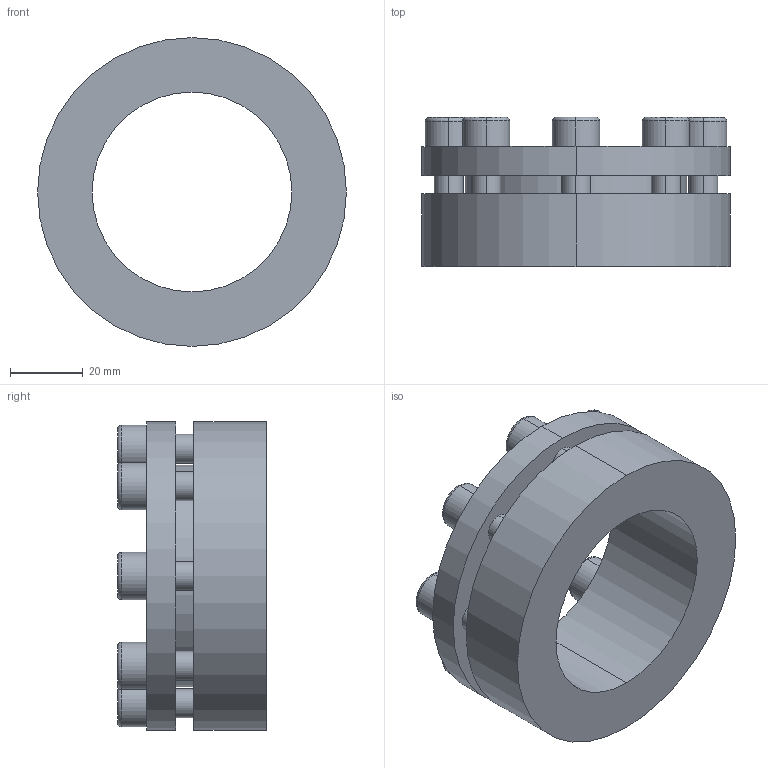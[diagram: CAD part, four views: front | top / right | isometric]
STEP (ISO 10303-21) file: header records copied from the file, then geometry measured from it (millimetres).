
FILE_DESCRIPTION (( 'STEP AP203' ), '1' );
FILE_NAME ('PL-H3 55-85.STEP', '2021-10-23T01:08:26', ( '' ), ( '' ), 'SwSTEP 2.0', 'SolidWorks 2018', '' );
FILE_SCHEMA (( 'CONFIG_CONTROL_DESIGN' ));
Length unit declared in the file: millimetre
Products named in the file (1): PL-H3 55-85
Bounding box: 85 x 41 x 85 mm (x, y, z)
Volume: 104536.1 mm3; surface area: 29574.8 mm2
Topology: 1 solids, 1 shells, 124 faces, 296 edges, 192 vertices
Faces by surface type: plane 68, cylinder 40, torus 16
Entity records: 3717 total; most frequent: DIRECTION 658, CARTESIAN_POINT 613, ORIENTED_EDGE 592, EDGE_CURVE 296, AXIS2_PLACEMENT_3D 237, VERTEX_POINT 192, LINE 184, VECTOR 184
